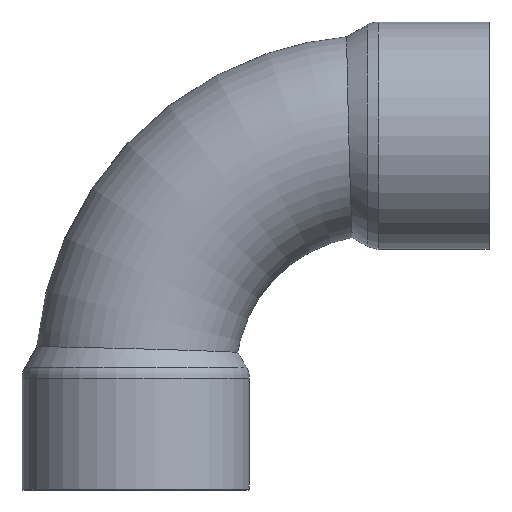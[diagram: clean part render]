
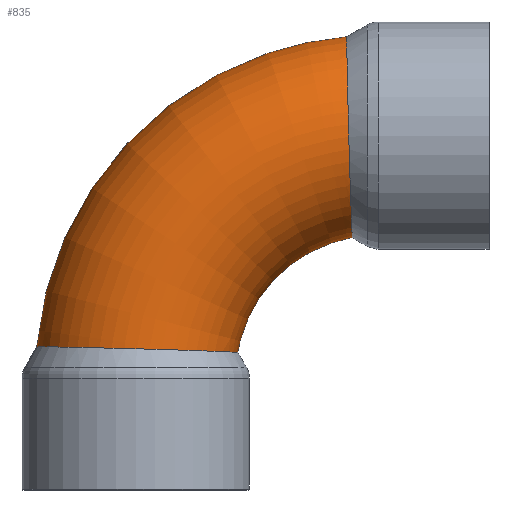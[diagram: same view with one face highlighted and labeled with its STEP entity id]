
A CAD part, left-side view. The second image highlights one B-rep face of the part: STEP entity #835.
In plain terms, the highlighted toroidal (fillet/blend) face has major radius 49.5 mm and minor radius 20.635 mm.
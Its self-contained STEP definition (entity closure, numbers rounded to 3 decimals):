
#446=CARTESIAN_POINT('',(0.0,6.049,69.874));
#447=VERTEX_POINT('',#446);
#448=CARTESIAN_POINT('',(0.0,6.049,69.874));
#449=CARTESIAN_POINT('',(1.48,6.049,69.874));
#450=CARTESIAN_POINT('',(2.955,6.046,69.714));
#451=CARTESIAN_POINT('',(5.815,6.034,69.088));
#452=CARTESIAN_POINT('',(7.193,6.026,68.631));
#453=CARTESIAN_POINT('',(10.996,5.993,66.905));
#454=CARTESIAN_POINT('',(13.232,5.962,65.295));
#455=CARTESIAN_POINT('',(16.95,5.88,61.299));
#456=CARTESIAN_POINT('',(18.394,5.83,58.952));
#457=CARTESIAN_POINT('',(20.293,5.711,53.83));
#458=CARTESIAN_POINT('',(20.726,5.644,51.104));
#459=CARTESIAN_POINT('',(20.512,5.496,45.629));
#460=CARTESIAN_POINT('',(19.862,5.416,42.932));
#461=CARTESIAN_POINT('',(17.59,5.258,38.03));
#462=CARTESIAN_POINT('',(16.02,5.18,35.854));
#463=CARTESIAN_POINT('',(12.082,5.038,32.158));
#464=CARTESIAN_POINT('',(9.727,4.976,30.696));
#465=CARTESIAN_POINT('',(5.675,4.911,29.188));
#466=CARTESIAN_POINT('',(4.136,4.894,28.809));
#467=CARTESIAN_POINT('',(1.541,4.879,28.482));
#468=CARTESIAN_POINT('',(0.505,4.876,28.43));
#469=CARTESIAN_POINT('',(-1.655,4.879,28.486));
#470=CARTESIAN_POINT('',(-2.774,4.884,28.607));
#471=CARTESIAN_POINT('',(-6.076,4.913,29.244));
#472=CARTESIAN_POINT('',(-8.19,4.948,30.024));
#473=CARTESIAN_POINT('',(-12.514,5.05,32.477));
#474=CARTESIAN_POINT('',(-14.598,5.122,34.284));
#475=CARTESIAN_POINT('',(-17.867,5.273,38.498));
#476=CARTESIAN_POINT('',(-19.062,5.351,40.835));
#477=CARTESIAN_POINT('',(-20.505,5.499,45.752));
#478=CARTESIAN_POINT('',(-20.768,5.569,48.284));
#479=CARTESIAN_POINT('',(-20.376,5.699,53.305));
#480=CARTESIAN_POINT('',(-19.728,5.757,55.755));
#481=CARTESIAN_POINT('',(-17.572,5.859,60.327));
#482=CARTESIAN_POINT('',(-16.075,5.903,62.407));
#483=CARTESIAN_POINT('',(-12.362,5.975,65.954));
#484=CARTESIAN_POINT('',(-10.166,6.002,67.376));
#485=CARTESIAN_POINT('',(-5.298,6.039,69.358));
#486=CARTESIAN_POINT('',(-2.662,6.049,69.874));
#487=CARTESIAN_POINT('',(0.,6.049,69.874));
#488=B_SPLINE_CURVE_WITH_KNOTS('',3,(#448,#449,#450,#451,#452,#453,#454,#455,#456,#457,#458,#459,#460,#461,#462,#463,#464,#465,#466,#467,#468,#469,#470,#471,#472,#473,#474,#475,#476,#477,#478,#479,#480,#481,#482,#483,#484,#485,#486,#487),.UNSPECIFIED.,.T.,.U.,(4,2,2,2,2,2,2,2,2,2,2,2,2,2,2,2,2,2,2,4),(-13.025,-12.582,-12.147,-11.329,-10.51,-9.69,-8.866,-8.068,-7.245,-6.771,-6.46,-6.123,-5.451,-4.631,-3.85,-3.093,-2.339,-1.577,-0.799,0.0),.UNSPECIFIED.);
#489=EDGE_CURVE('',#447,#447,#488,.T.);
#692=CARTESIAN_POINT('',(0.,69.874,6.049));
#693=VERTEX_POINT('',#692);
#694=CARTESIAN_POINT('',(0.,69.874,6.049));
#695=CARTESIAN_POINT('',(-1.48,69.874,6.049));
#696=CARTESIAN_POINT('',(-2.955,69.714,6.046));
#697=CARTESIAN_POINT('',(-5.815,69.088,6.034));
#698=CARTESIAN_POINT('',(-7.193,68.631,6.026));
#699=CARTESIAN_POINT('',(-10.996,66.905,5.993));
#700=CARTESIAN_POINT('',(-13.232,65.295,5.962));
#701=CARTESIAN_POINT('',(-16.95,61.299,5.88));
#702=CARTESIAN_POINT('',(-18.394,58.952,5.83));
#703=CARTESIAN_POINT('',(-20.293,53.83,5.711));
#704=CARTESIAN_POINT('',(-20.726,51.104,5.644));
#705=CARTESIAN_POINT('',(-20.512,45.629,5.496));
#706=CARTESIAN_POINT('',(-19.862,42.932,5.416));
#707=CARTESIAN_POINT('',(-17.59,38.03,5.258));
#708=CARTESIAN_POINT('',(-16.02,35.854,5.18));
#709=CARTESIAN_POINT('',(-12.082,32.158,5.038));
#710=CARTESIAN_POINT('',(-9.727,30.696,4.976));
#711=CARTESIAN_POINT('',(-5.675,29.188,4.911));
#712=CARTESIAN_POINT('',(-4.136,28.809,4.894));
#713=CARTESIAN_POINT('',(-1.541,28.482,4.879));
#714=CARTESIAN_POINT('',(-0.505,28.43,4.876));
#715=CARTESIAN_POINT('',(1.655,28.486,4.879));
#716=CARTESIAN_POINT('',(2.774,28.607,4.884));
#717=CARTESIAN_POINT('',(6.076,29.244,4.913));
#718=CARTESIAN_POINT('',(8.19,30.024,4.948));
#719=CARTESIAN_POINT('',(12.514,32.477,5.05));
#720=CARTESIAN_POINT('',(14.598,34.284,5.122));
#721=CARTESIAN_POINT('',(17.867,38.498,5.273));
#722=CARTESIAN_POINT('',(19.062,40.835,5.351));
#723=CARTESIAN_POINT('',(20.505,45.752,5.499));
#724=CARTESIAN_POINT('',(20.768,48.284,5.569));
#725=CARTESIAN_POINT('',(20.376,53.305,5.699));
#726=CARTESIAN_POINT('',(19.728,55.755,5.757));
#727=CARTESIAN_POINT('',(17.572,60.327,5.859));
#728=CARTESIAN_POINT('',(16.075,62.407,5.903));
#729=CARTESIAN_POINT('',(12.362,65.954,5.975));
#730=CARTESIAN_POINT('',(10.166,67.376,6.002));
#731=CARTESIAN_POINT('',(5.298,69.358,6.039));
#732=CARTESIAN_POINT('',(2.662,69.874,6.049));
#733=CARTESIAN_POINT('',(0.0,69.874,6.049));
#734=B_SPLINE_CURVE_WITH_KNOTS('',3,(#694,#695,#696,#697,#698,#699,#700,#701,#702,#703,#704,#705,#706,#707,#708,#709,#710,#711,#712,#713,#714,#715,#716,#717,#718,#719,#720,#721,#722,#723,#724,#725,#726,#727,#728,#729,#730,#731,#732,#733),.UNSPECIFIED.,.T.,.U.,(4,2,2,2,2,2,2,2,2,2,2,2,2,2,2,2,2,2,2,4),(-13.025,-12.582,-12.147,-11.329,-10.51,-9.69,-8.866,-8.068,-7.245,-6.771,-6.46,-6.123,-5.451,-4.631,-3.85,-3.093,-2.339,-1.577,-0.799,0.0),.UNSPECIFIED.);
#735=EDGE_CURVE('',#693,#693,#734,.T.);
#824=CARTESIAN_POINT('',(0.0,0.0,0.0));
#825=DIRECTION('',(1.0,0.0,0.0));
#826=DIRECTION('',(0.0,0.0,-1.0));
#827=AXIS2_PLACEMENT_3D('',#824,#825,#826);
#828=TOROIDAL_SURFACE('',#827,49.5,20.635);
#829=ORIENTED_EDGE('',*,*,#489,.T.);
#830=EDGE_LOOP('',(#829));
#831=FACE_OUTER_BOUND('',#830,.T.);
#832=ORIENTED_EDGE('',*,*,#735,.T.);
#833=EDGE_LOOP('',(#832));
#834=FACE_BOUND('',#833,.T.);
#835=ADVANCED_FACE('',(#831,#834),#828,.T.);
